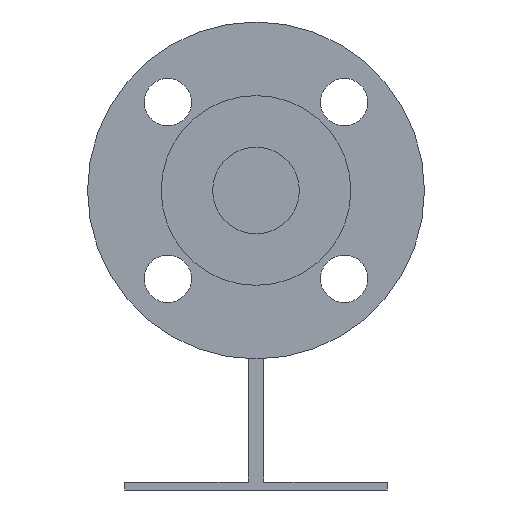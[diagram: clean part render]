
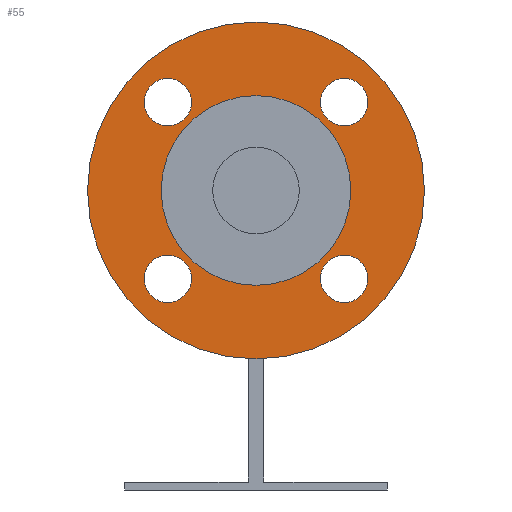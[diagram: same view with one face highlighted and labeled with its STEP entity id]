
A CAD part, left-side view. The second image highlights one B-rep face of the part: STEP entity #55.
In plain terms, the highlighted planar face has unit normal (-1, 0, 0).
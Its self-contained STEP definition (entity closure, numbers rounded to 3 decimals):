
#55=ADVANCED_FACE('',(#278,#279,#280,#281,#282,#283),#277,.T.);
#277=PLANE('',#1010);
#278=FACE_OUTER_BOUND('',#1011,.T.);
#279=FACE_BOUND('',#1012,.T.);
#280=FACE_BOUND('',#1013,.T.);
#281=FACE_BOUND('',#1014,.T.);
#282=FACE_BOUND('',#1015,.T.);
#283=FACE_BOUND('',#1016,.T.);
#1007=CARTESIAN_POINT('',(-339.,-126.913,-145.));
#1008=DIRECTION('',(-1.,0.,0.));
#1009=DIRECTION('',(0.,0.,1.));
#1010=AXIS2_PLACEMENT_3D('',#1007,#1008,#1009);
#1011=EDGE_LOOP('',(#1429,#1430));
#1012=EDGE_LOOP('',(#1431,#1432));
#1013=EDGE_LOOP('',(#1433,#1434));
#1014=EDGE_LOOP('',(#1435,#1436));
#1015=EDGE_LOOP('',(#1437,#1438));
#1016=EDGE_LOOP('',(#1439,#1440));
#1429=ORIENTED_EDGE('',*,*,#1803,.T.);
#1430=ORIENTED_EDGE('',*,*,#1804,.T.);
#1431=ORIENTED_EDGE('',*,*,#1805,.F.);
#1432=ORIENTED_EDGE('',*,*,#1806,.F.);
#1433=ORIENTED_EDGE('',*,*,#1807,.F.);
#1434=ORIENTED_EDGE('',*,*,#1808,.F.);
#1435=ORIENTED_EDGE('',*,*,#1809,.F.);
#1436=ORIENTED_EDGE('',*,*,#1810,.F.);
#1437=ORIENTED_EDGE('',*,*,#1811,.F.);
#1438=ORIENTED_EDGE('',*,*,#1812,.F.);
#1439=ORIENTED_EDGE('',*,*,#1813,.F.);
#1440=ORIENTED_EDGE('',*,*,#1814,.F.);
#1803=EDGE_CURVE('',#2425,#2426,#2427,.T.);
#1804=EDGE_CURVE('',#2426,#2425,#2433,.T.);
#1805=EDGE_CURVE('',#2439,#2440,#2441,.T.);
#1806=EDGE_CURVE('',#2440,#2439,#2447,.T.);
#1807=EDGE_CURVE('',#2453,#2454,#2455,.T.);
#1808=EDGE_CURVE('',#2454,#2453,#2461,.T.);
#1809=EDGE_CURVE('',#2467,#2468,#2469,.T.);
#1810=EDGE_CURVE('',#2468,#2467,#2475,.T.);
#1811=EDGE_CURVE('',#2481,#2482,#2483,.T.);
#1812=EDGE_CURVE('',#2482,#2481,#2489,.T.);
#1813=EDGE_CURVE('',#2495,#2496,#2497,.T.);
#1814=EDGE_CURVE('',#2496,#2495,#2503,.T.);
#2425=VERTEX_POINT('',#3529);
#2426=VERTEX_POINT('',#3530);
#2427=CIRCLE('',#3534,67.5);
#2433=CIRCLE('',#3538,67.5);
#2439=VERTEX_POINT('',#3539);
#2440=VERTEX_POINT('',#3540);
#2441=CIRCLE('',#3544,9.5);
#2447=CIRCLE('',#3548,9.5);
#2453=VERTEX_POINT('',#3549);
#2454=VERTEX_POINT('',#3550);
#2455=CIRCLE('',#3554,9.5);
#2461=CIRCLE('',#3558,9.5);
#2467=VERTEX_POINT('',#3559);
#2468=VERTEX_POINT('',#3560);
#2469=CIRCLE('',#3564,9.5);
#2475=CIRCLE('',#3568,9.5);
#2481=VERTEX_POINT('',#3569);
#2482=VERTEX_POINT('',#3570);
#2483=CIRCLE('',#3574,38.);
#2489=CIRCLE('',#3578,38.);
#2495=VERTEX_POINT('',#3579);
#2496=VERTEX_POINT('',#3580);
#2497=CIRCLE('',#3584,9.5);
#2503=CIRCLE('',#3588,9.5);
#3529=CARTESIAN_POINT('',(-339.,0.,67.5));
#3530=CARTESIAN_POINT('',(-339.,0.,-67.5));
#3531=CARTESIAN_POINT('',(-339.,0.,0.));
#3532=DIRECTION('',(-1.,0.,0.));
#3533=DIRECTION('',(0.,0.,1.));
#3534=AXIS2_PLACEMENT_3D('',#3531,#3532,#3533);
#3535=CARTESIAN_POINT('',(-339.,0.,0.));
#3536=DIRECTION('',(-1.,0.,0.));
#3537=DIRECTION('',(0.,0.,1.));
#3538=AXIS2_PLACEMENT_3D('',#3535,#3536,#3537);
#3539=CARTESIAN_POINT('',(-339.,-35.355,44.855));
#3540=CARTESIAN_POINT('',(-339.,-35.355,25.855));
#3541=CARTESIAN_POINT('',(-339.,-35.355,35.355));
#3542=DIRECTION('',(-1.,0.,0.));
#3543=DIRECTION('',(0.,0.,-1.));
#3544=AXIS2_PLACEMENT_3D('',#3541,#3542,#3543);
#3545=CARTESIAN_POINT('',(-339.,-35.355,35.355));
#3546=DIRECTION('',(-1.,0.,0.));
#3547=DIRECTION('',(0.,0.,-1.));
#3548=AXIS2_PLACEMENT_3D('',#3545,#3546,#3547);
#3549=CARTESIAN_POINT('',(-339.,-35.355,-25.855));
#3550=CARTESIAN_POINT('',(-339.,-35.355,-44.855));
#3551=CARTESIAN_POINT('',(-339.,-35.355,-35.355));
#3552=DIRECTION('',(-1.,0.,0.));
#3553=DIRECTION('',(0.,0.,-1.));
#3554=AXIS2_PLACEMENT_3D('',#3551,#3552,#3553);
#3555=CARTESIAN_POINT('',(-339.,-35.355,-35.355));
#3556=DIRECTION('',(-1.,0.,0.));
#3557=DIRECTION('',(0.,0.,-1.));
#3558=AXIS2_PLACEMENT_3D('',#3555,#3556,#3557);
#3559=CARTESIAN_POINT('',(-339.,35.356,-25.855));
#3560=CARTESIAN_POINT('',(-339.,35.356,-44.855));
#3561=CARTESIAN_POINT('',(-339.,35.356,-35.355));
#3562=DIRECTION('',(-1.,0.,0.));
#3563=DIRECTION('',(0.,0.,-1.));
#3564=AXIS2_PLACEMENT_3D('',#3561,#3562,#3563);
#3565=CARTESIAN_POINT('',(-339.,35.356,-35.355));
#3566=DIRECTION('',(-1.,0.,0.));
#3567=DIRECTION('',(0.,0.,-1.));
#3568=AXIS2_PLACEMENT_3D('',#3565,#3566,#3567);
#3569=CARTESIAN_POINT('',(-339.,0.,-38.));
#3570=CARTESIAN_POINT('',(-339.,0.,38.));
#3571=CARTESIAN_POINT('',(-339.,0.,0.));
#3572=DIRECTION('',(-1.,0.,0.));
#3573=DIRECTION('',(0.,0.,1.));
#3574=AXIS2_PLACEMENT_3D('',#3571,#3572,#3573);
#3575=CARTESIAN_POINT('',(-339.,0.,0.));
#3576=DIRECTION('',(-1.,0.,0.));
#3577=DIRECTION('',(0.,0.,1.));
#3578=AXIS2_PLACEMENT_3D('',#3575,#3576,#3577);
#3579=CARTESIAN_POINT('',(-339.,35.356,44.855));
#3580=CARTESIAN_POINT('',(-339.,35.356,25.855));
#3581=CARTESIAN_POINT('',(-339.,35.356,35.355));
#3582=DIRECTION('',(-1.,0.,0.));
#3583=DIRECTION('',(0.,0.,-1.));
#3584=AXIS2_PLACEMENT_3D('',#3581,#3582,#3583);
#3585=CARTESIAN_POINT('',(-339.,35.356,35.355));
#3586=DIRECTION('',(-1.,0.,0.));
#3587=DIRECTION('',(0.,0.,-1.));
#3588=AXIS2_PLACEMENT_3D('',#3585,#3586,#3587);
